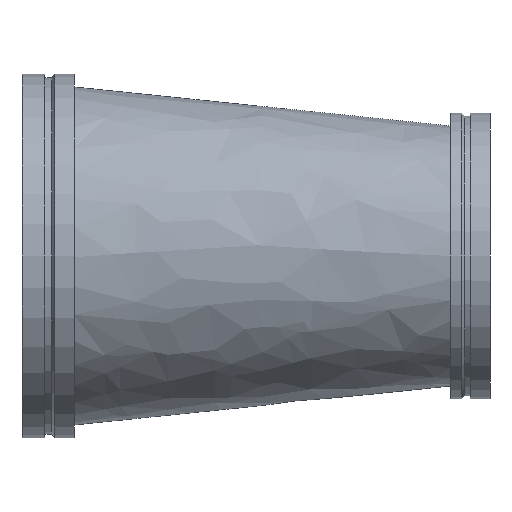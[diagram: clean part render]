
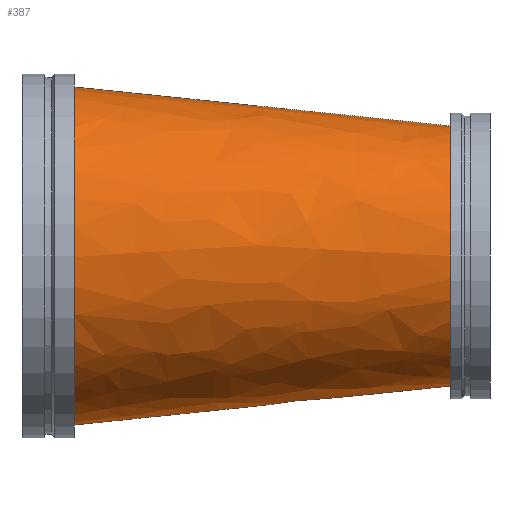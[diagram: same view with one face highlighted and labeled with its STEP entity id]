
A CAD part, front view. The second image highlights one B-rep face of the part: STEP entity #387.
In plain terms, the highlighted free-form (B-spline) face has degree [1, 2] with [2, 9] control points.
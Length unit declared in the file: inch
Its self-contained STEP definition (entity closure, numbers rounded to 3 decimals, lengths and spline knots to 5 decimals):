
#46=B_SPLINE_CURVE_WITH_KNOTS('',1,(#747,#748),.UNSPECIFIED.,.F.,.F.,(2,
2),(-2.25522,-0.00107),.UNSPECIFIED.);
#48=(
BOUNDED_SURFACE()
B_SPLINE_SURFACE(1,2,((#729,#730,#731,#732,#733,#734,#735,#736,#737),(#738,
#739,#740,#741,#742,#743,#744,#745,#746)),.UNSPECIFIED.,.F.,.T.,.F.)
B_SPLINE_SURFACE_WITH_KNOTS((2,2),(3,2,2,2,3),(-0.10236,2.33313),
(-3.14159,-1.5708,0.,1.5708,3.14159),
 .UNSPECIFIED.)
GEOMETRIC_REPRESENTATION_ITEM()
RATIONAL_B_SPLINE_SURFACE(((1.,0.707,1.,0.707,1.,
0.707,1.,0.707,1.),(1.,0.707,1.,0.707,
1.,0.707,1.,0.707,1.)))
REPRESENTATION_ITEM('')
SURFACE()
);
#98=FACE_OUTER_BOUND('',#120,.T.);
#120=EDGE_LOOP('',(#321,#322,#323,#324,#325,#326));
#129=CIRCLE('',#415,10.);
#130=CIRCLE('',#416,10.);
#153=CIRCLE('',#450,13.);
#154=CIRCLE('',#451,13.);
#166=VERTEX_POINT('',#628);
#167=VERTEX_POINT('',#629);
#190=VERTEX_POINT('',#695);
#191=VERTEX_POINT('',#696);
#203=EDGE_CURVE('',#166,#167,#129,.T.);
#204=EDGE_CURVE('',#167,#166,#130,.T.);
#235=EDGE_CURVE('',#190,#191,#153,.T.);
#236=EDGE_CURVE('',#191,#190,#154,.T.);
#243=EDGE_CURVE('',#167,#191,#46,.T.);
#321=ORIENTED_EDGE('',*,*,#203,.T.);
#322=ORIENTED_EDGE('',*,*,#243,.T.);
#323=ORIENTED_EDGE('',*,*,#236,.T.);
#324=ORIENTED_EDGE('',*,*,#235,.T.);
#325=ORIENTED_EDGE('',*,*,#243,.F.);
#326=ORIENTED_EDGE('',*,*,#204,.T.);
#387=ADVANCED_FACE('',(#98),#48,.F.);
#415=AXIS2_PLACEMENT_3D('',#630,#486,#487);
#416=AXIS2_PLACEMENT_3D('',#631,#488,#489);
#450=AXIS2_PLACEMENT_3D('',#697,#564,#565);
#451=AXIS2_PLACEMENT_3D('',#698,#566,#567);
#486=DIRECTION('center_axis',(-1.,0.,0.));
#487=DIRECTION('ref_axis',(0.,-1.,0.));
#488=DIRECTION('center_axis',(-1.,0.,0.));
#489=DIRECTION('ref_axis',(0.,-1.,0.));
#564=DIRECTION('center_axis',(1.,0.,0.));
#565=DIRECTION('ref_axis',(0.,1.,0.));
#566=DIRECTION('center_axis',(1.,0.,0.));
#567=DIRECTION('ref_axis',(0.,1.,0.));
#628=CARTESIAN_POINT('',(33.,-13.,0.));
#629=CARTESIAN_POINT('',(33.,-3.10478,9.99945));
#630=CARTESIAN_POINT('Origin',(33.,-3.,0.));
#631=CARTESIAN_POINT('Origin',(33.,-3.,0.));
#695=CARTESIAN_POINT('',(4.,13.,0.));
#696=CARTESIAN_POINT('',(4.,-0.13622,12.99929));
#697=CARTESIAN_POINT('Origin',(4.,0.,0.));
#698=CARTESIAN_POINT('Origin',(4.,0.,0.));
#729=CARTESIAN_POINT('Ctrl Pts',(2.66926,0.,13.13694));
#730=CARTESIAN_POINT('Ctrl Pts',(1.33853,-13.,13.13694));
#731=CARTESIAN_POINT('Ctrl Pts',(1.33853,-13.,0.));
#732=CARTESIAN_POINT('Ctrl Pts',(1.33853,-13.,-13.13694));
#733=CARTESIAN_POINT('Ctrl Pts',(2.66926,0.,
-13.13694));
#734=CARTESIAN_POINT('Ctrl Pts',(4.,13.,-13.13694));
#735=CARTESIAN_POINT('Ctrl Pts',(4.,13.,0.));
#736=CARTESIAN_POINT('Ctrl Pts',(4.,13.,13.13694));
#737=CARTESIAN_POINT('Ctrl Pts',(2.66926,0.,13.13694));
#738=CARTESIAN_POINT('Ctrl Pts',(34.00241,-3.2074,9.89576));
#739=CARTESIAN_POINT('Ctrl Pts',(33.,-13.,9.89576));
#740=CARTESIAN_POINT('Ctrl Pts',(33.,-13.,0.));
#741=CARTESIAN_POINT('Ctrl Pts',(33.,-13.,-9.89576));
#742=CARTESIAN_POINT('Ctrl Pts',(34.00241,-3.2074,-9.89576));
#743=CARTESIAN_POINT('Ctrl Pts',(35.00483,6.58521,-9.89576));
#744=CARTESIAN_POINT('Ctrl Pts',(35.00483,6.58521,0.));
#745=CARTESIAN_POINT('Ctrl Pts',(35.00483,6.58521,9.89576));
#746=CARTESIAN_POINT('Ctrl Pts',(34.00241,-3.2074,9.89576));
#747=CARTESIAN_POINT('Ctrl Pts',(33.,-3.10478,9.99945));
#748=CARTESIAN_POINT('Ctrl Pts',(4.,-0.13622,12.99929));
